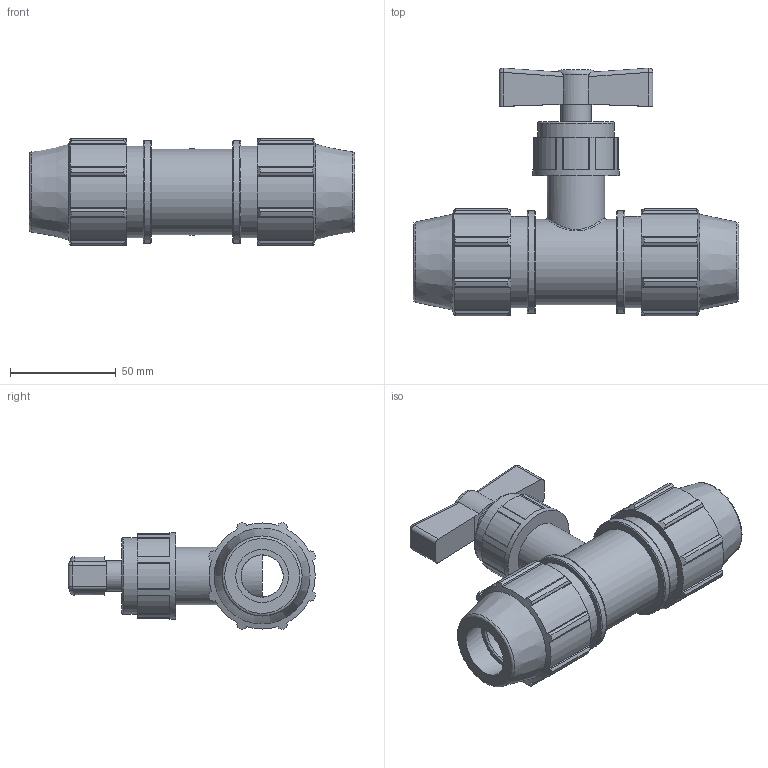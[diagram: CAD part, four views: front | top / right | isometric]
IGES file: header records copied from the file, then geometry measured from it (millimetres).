
Global section: file name: 03407025.ipt; native system: Autodesk Inventor 2015; preprocessor: unknown; author: KIM; date: 20170618.093049; units: millimetre
Bounding box: 154 x 117.21 x 50.81 mm (x, y, z)
Volume: 246316.3 mm3; surface area: 51403.6 mm2
Topology: 1 solids, 1 shells, 235 faces, 657 edges, 439 vertices
Faces by surface type: plane 132, cylinder 63, cone 20, revolution 15, sphere 4, bspline 1
Full cylindrical faces by diameter (mm): 14.56 x1, 27.3 x1, 36.4 x1, 40.5 x1, 40.95 x1, 43.2 x2, 48.6 x2
